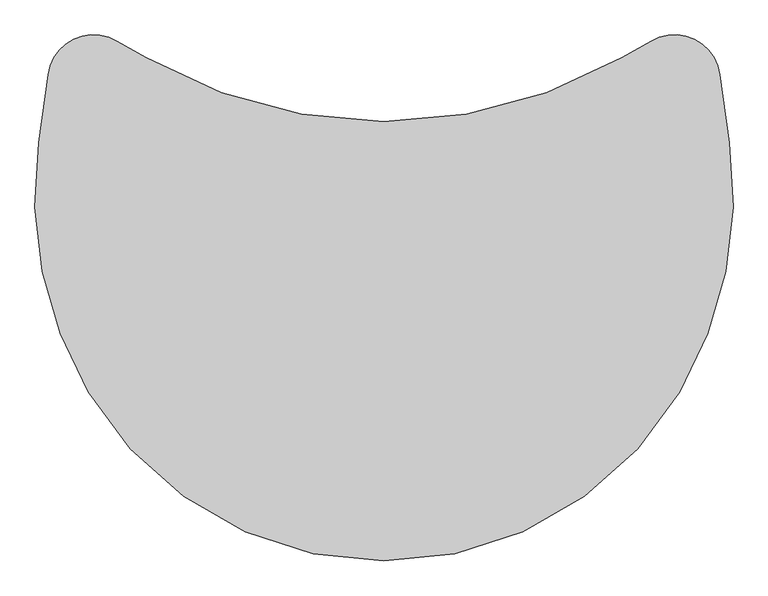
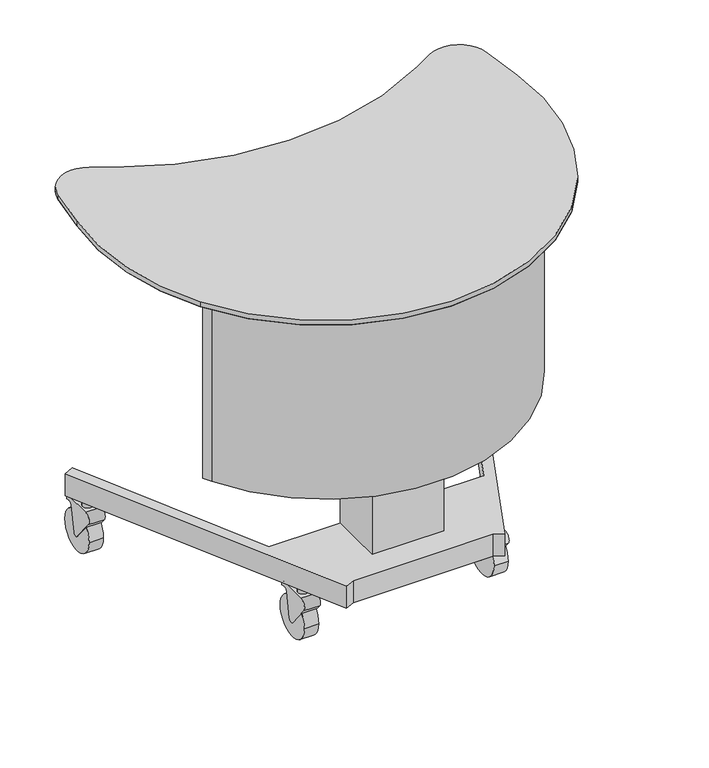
"""IFC4 building model written with IfcOpenShell, lengths in millimetres: furniture geometry, BK Library - Ease-Up - Infopoint : BK Library - Ease-Up - Infopoint."""

from ifc_helpers import new_model, si_unit, point, frame, frame_2d, origin, place, context, project, spatial, polyline, circle_curve, trimmed, segment, composite_curve, outline, extrude, source, transform, mapped, element, save
from ifc_brep_helpers import plane_surface, revolved_surface, advanced_brep


def furniture_72eb3576(model_context):
    return source(origin(), model_context, "Body", "SolidModel", [
        advanced_brep(
        [(-508.8128872, 403.8319139, 887.5070609), (-523.279447, 300.8969927, 887.5070609), (-448.2189859, -77.1008104, 887.5070609), (448.2189859, -77.1008104, 887.5070609), (523.279447, 300.8969927, 887.5070609), (508.8128872, 403.8319139, 887.5070609), (404.4941224, 454.7115751, 887.5070609), (360.0, 429.0228815, 887.5070609), (-360.0, 429.0228815, 887.5070609), (-404.4941224, 454.7115751, 887.5070609), (-489.0075259, 401.0484519, 875.0000016), (-414.4941224, 437.391067, 875.0000016), (-370.0, 411.7023734, 875.0000016), (370.0, 411.7023734, 875.0000016), (414.4941224, 437.391067, 875.0000016), (489.0075259, 401.0484519, 875.0000016), (503.4740856, 298.1135306, 875.0000016), (430.9797942, -66.9612706, 875.0000016), (-430.9797942, -66.9612706, 875.0000016), (-503.4740856, 298.1135306, 875.0000016)],
        [
            (0, 1),
            (1, 2, circle_curve(frame((56.0273732, 219.4807286, 887.5070609), z_axis=(0.0, 0.0, 1.0), x_axis=(-0.9902680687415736, 0.13917310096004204, 0.0)), 585.0)),
            (2, 3, circle_curve(frame((0.0, 186.5272243, 887.5070609), z_axis=(0.0, 0.0, 1.0), x_axis=(-0.8619595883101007, -0.5069769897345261, 0.0)), 520.0)),
            (3, 4, circle_curve(frame((-56.0273732, 219.4807286, 887.5070609), z_axis=(0.0, 0.0, 1.0), x_axis=(0.8619595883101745, -0.5069769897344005, 0.0)), 585.0)),
            (4, 5),
            (5, 6, circle_curve(frame((439.4941224, 394.0897968, 887.5070609), z_axis=(0.0, 0.0, 1.0), x_axis=(0.9902680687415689, 0.1391731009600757, 0.0)), 70.0)),
            (6, 7),
            (7, 8, circle_curve(frame((0.0, 1052.5611722, 887.5070609), z_axis=(0.0, 0.0, -1.0), x_axis=(0.49999999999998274, -0.8660254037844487, 0.0)), 720.0)),
            (8, 9),
            (9, 0, circle_curve(frame((-439.4941224, 394.0897968, 887.5070609), z_axis=(0.0, 0.0, 1.0), x_axis=(0.5000000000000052, 0.8660254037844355, 0.0)), 70.0)),
            (10, 11, circle_curve(frame((-439.4941224, 394.0897968, 875.0000016), z_axis=(0.0, 0.0, -1.0), x_axis=(0.5000000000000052, 0.8660254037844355, 0.0)), 50.0)),
            (11, 12),
            (12, 13, circle_curve(frame((0.0, 1052.5611722, 875.0000016), z_axis=(0.0, 0.0, 1.0), x_axis=(0.49999999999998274, -0.8660254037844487, 0.0)), 740.0)),
            (13, 14),
            (14, 15, circle_curve(frame((439.4941224, 394.0897968, 875.0000016), z_axis=(0.0, 0.0, -1.0), x_axis=(0.9902680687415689, 0.1391731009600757, 0.0)), 50.0)),
            (15, 16),
            (16, 17, circle_curve(frame((-56.0273732, 219.4807286, 875.0000016), z_axis=(0.0, 0.0, -1.0), x_axis=(0.8619595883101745, -0.5069769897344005, 0.0)), 565.0)),
            (17, 18, circle_curve(frame((0.0, 186.5272243, 875.0000016), z_axis=(0.0, 0.0, -1.0), x_axis=(-0.8619595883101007, -0.5069769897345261, 0.0)), 500.0)),
            (18, 19, circle_curve(frame((56.0273732, 219.4807286, 875.0000016), z_axis=(0.0, 0.0, -1.0), x_axis=(-0.9902680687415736, 0.13917310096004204, 0.0)), 565.0)),
            (19, 10),
            (19, 1),
            (0, 10),
            (18, 2),
            (17, 3),
            (16, 4),
            (15, 5),
            (14, 6),
            (13, 7),
            (12, 8),
            (11, 9),
        ],
        [
            plane_surface(frame((0.0, 302.2725105, 887.5070609), z_axis=(0.0, 0.0, 1.0), x_axis=(-0.8660254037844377, 0.5000000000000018, 0.0))),
            plane_surface(frame((0.0, 296.2588305, 875.0000016), z_axis=(0.0, 0.0, -1.0), x_axis=(-0.8660254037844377, 0.5000000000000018, 0.0))),
            plane_surface(frame((-496.2408057, 349.5809912, 875.0000016), z_axis=(-0.5250541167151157, 0.0737915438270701, -0.8478637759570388), x_axis=(-0.13917310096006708, -0.9902680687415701, 0.0))),
            revolved_surface(polyline([(-430.9797940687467, -66.9612705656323, 875.0000016), (-448.2189859, -77.10081040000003, 887.5070609)]), (56.0273732, 219.4807286, 521.6755778), (0.0, 0.0, 1.0)),
            revolved_surface(polyline([(430.9797940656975, -66.96127056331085, 875.0000016), (448.2189859, -77.1008104, 887.5070609)]), (0.0, 186.5272243, 562.3235204), (0.0, 0.0, 1.0)),
            revolved_surface(polyline([(503.4740855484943, 298.1135306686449, 875.0000016), (523.2794469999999, 300.8969927, 887.5070609)]), (-56.0273732, 219.4807286, 521.6755778), (0.0, 0.0, 1.0)),
            plane_surface(frame((496.2408057, 349.5809912, 875.0000016), z_axis=(0.5250541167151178, 0.0737915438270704, -0.8478637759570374), x_axis=(-0.13917310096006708, 0.9902680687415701, 0.0))),
            revolved_surface(polyline([(414.4941224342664, 437.39106695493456, 875.0000016), (404.4941224, 454.7115751, 887.5070609)]), (439.4941224, 394.0897968, 843.7323535), (0.0, 0.0, 1.0)),
            plane_surface(frame((392.2470612, 424.5467202, 875.0000016), z_axis=(-0.26510706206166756, 0.4591789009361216, -0.8478637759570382), x_axis=(-0.8660254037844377, -0.5000000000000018, 0.0))),
            revolved_surface(polyline([(370.0, 411.70237339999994, 875.0000016), (359.999999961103, 429.0228815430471, 887.5070609)]), (0.0, 1052.5611722, 1337.7611939), (0.0, 0.0, -1.0)),
            plane_surface(frame((-392.2470612, 424.5467202, 875.0000016), z_axis=(0.2651070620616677, 0.45917890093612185, -0.8478637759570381), x_axis=(-0.8660254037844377, 0.5000000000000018, 0.0))),
            revolved_surface(polyline([(-489.00752576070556, 401.04845186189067, 875.0000016), (-508.8128872, 403.8319139, 887.5070609)]), (-439.4941224, 394.0897968, 843.7323535), (0.0, 0.0, 1.0)),
        ],
        [
            (0, [[1, 2, 3, 4, 5, 6, 7, 8, 9, 10]]),
            (1, [[11, 12, 13, 14, 15, 16, 17, 18, 19, 20]]),
            (2, [[-20, 21, -1, 22]]),
            (3, [[-19, 23, -2, -21]]),
            (4, [[-18, 24, -3, -23]]),
            (5, [[-17, 25, -4, -24]]),
            (6, [[-16, 26, -5, -25]]),
            (7, [[-15, 27, -6, -26]]),
            (8, [[-14, 28, -7, -27]]),
            (9, [[-13, 29, -8, -28]]),
            (10, [[-12, 30, -9, -29]]),
            (11, [[-11, -22, -10, -30]]),
        ],
    ),
        extrude(outline(composite_curve([segment(polyline([(-405.4062199, -12.7808011), (-361.5152274, 11.1687287), (-351.1279923, -7.8673877)]), True, "CONTINUOUS"), segment(trimmed(circle_curve(frame_2d((0.0, 183.7288884)), 400.0), [point((-351.1279923, -7.8673877))], [point((351.1279923, -7.8673877))], True, "CARTESIAN"), True, "CONTINUOUS"), segment(polyline([(351.1279923, -7.8673877), (361.5152274, 11.1687287), (405.4062199, -12.7808011), (395.0189015, -31.8170514)]), True, "CONTINUOUS"), segment(trimmed(circle_curve(frame_2d((0.0, 183.728924)), 450.0), [point((395.0189015, -31.8170514))], [point((-395.0189015, -31.8170514))], False, "CARTESIAN"), True, "CONTINUOUS"), segment(polyline([(-395.0189015, -31.8170514), (-405.4062199, -12.7808011)]), True, "CONTINUOUS")], self_intersect=False)), frame((0.0, 0.0, 402.9999948), z_axis=(0.0, 0.0, 1.0), x_axis=(1.0, 0.0, 0.0)), (0.0, 0.0, 1.0), 472.0000069),
        extrude(outline(composite_curve([segment(trimmed(circle_curve(frame_2d((0.0, 1052.5611722)), 720.0), [point((-360.0, 429.0228815))], [point((360.0, 429.0228815))], True, "CARTESIAN"), True, "CONTINUOUS"), segment(polyline([(360.0, 429.0228815), (404.4941224, 454.7115751)]), True, "CONTINUOUS"), segment(trimmed(circle_curve(frame_2d((439.4941224, 394.0897968)), 70.0), [point((404.4941224, 454.7115751))], [point((508.8128872, 403.8319139))], False, "CARTESIAN"), True, "CONTINUOUS"), segment(polyline([(508.8128872, 403.8319139), (523.279447, 300.8969927)]), True, "CONTINUOUS"), segment(trimmed(circle_curve(frame_2d((-56.0273732, 219.4807286)), 585.0), [point((523.279447, 300.8969927))], [point((448.2189859, -77.1008104))], False, "CARTESIAN"), True, "CONTINUOUS"), segment(trimmed(circle_curve(frame_2d((0.0, 186.5272243)), 520.0), [point((448.2189859, -77.1008104))], [point((-448.2189859, -77.1008104))], False, "CARTESIAN"), True, "CONTINUOUS"), segment(trimmed(circle_curve(frame_2d((56.0273732, 219.4807286)), 585.0), [point((-448.2189859, -77.1008104))], [point((-523.279447, 300.8969927))], False, "CARTESIAN"), True, "CONTINUOUS"), segment(polyline([(-523.279447, 300.8969927), (-508.8128872, 403.8319139)]), True, "CONTINUOUS"), segment(trimmed(circle_curve(frame_2d((-439.4941224, 394.0897968)), 70.0), [point((-508.8128872, 403.8319139))], [point((-404.4941224, 454.7115751))], False, "CARTESIAN"), True, "CONTINUOUS"), segment(polyline([(-404.4941224, 454.7115751), (-360.0, 429.0228815)]), True, "CONTINUOUS")], self_intersect=False)), frame((0.0, 0.0, 887.5070609), z_axis=(0.0, 0.0, 1.0), x_axis=(1.0, 0.0, 0.0)), (0.0, 0.0, 1.0), 12.4929391),
        extrude(outline(polyline([(85.0000086, -25.0000002), (85.0000086, -155.0000155), (-85.0000073, -155.0000155), (-85.0000073, -25.0000002), (85.0000086, -25.0000002)])), frame((0.0, 0.0, 185.1070994), z_axis=(0.0, 0.0, 1.0), x_axis=(1.0, 0.0, 0.0)), (0.0, 0.0, 1.0), 689.8929022),
        extrude(outline(polyline([(-486.3288536, 411.5514373), (-463.6711523, 422.1168943), (-255.1771198, -25.0000002), (255.1771198, -25.0000002), (463.6711523, 422.1168943), (486.3288536, 411.5514373), (188.3582333, -227.4485441), (165.700532, -216.883128), (-165.700532, -216.883128), (-188.3582333, -227.4485441), (-486.3288536, 411.5514373)])), frame((0.0, 0.0, 130.1070999), z_axis=(0.0, 0.0, 1.0), x_axis=(1.0, 0.0, 0.0)), (0.0, 0.0, 1.0), 54.9999995),
        extrude(outline(composite_curve([segment(trimmed(circle_curve(frame_2d((-455.0880901, 375.0071075)), 11.9829571), [point((-443.105133, 375.0071075))], [point((-467.0710472, 375.0071075))], False, "CARTESIAN"), True, "CONTINUOUS"), segment(trimmed(circle_curve(frame_2d((-455.0880901, 375.0071075)), 11.9829571), [point((-467.0710472, 375.0071075))], [point((-443.105133, 375.0071075))], False, "CARTESIAN"), True, "CONTINUOUS")], self_intersect=False)), frame((0.0, 0.0, 118.2011673), z_axis=(0.0, 0.0, 1.0), x_axis=(1.0, 0.0, 0.0)), (0.0, 0.0, 1.0), 25.0518565),
        extrude(outline(composite_curve([segment(polyline([(353.1911199, 118.2011673), (422.0278449, 118.2011673)]), True, "CONTINUOUS"), segment(trimmed(circle_curve(frame_2d((422.0278449, 108.433686)), 9.7674813), [point((422.0278449, 118.2011673))], [point((431.2846714, 105.3168199))], False, "CARTESIAN"), True, "CONTINUOUS"), segment(polyline([(431.2846714, 105.3168199), (421.5641791, 107.2062922)]), True, "CONTINUOUS"), segment(trimmed(circle_curve(frame_2d((420.0582632, 99.4590263)), 7.892269), [point((421.5641791, 107.2062922))], [point((412.3109974, 100.9649423))], True, "CARTESIAN"), True, "CONTINUOUS"), segment(polyline([(412.3109974, 100.9649423), (400.4351675, 39.8690939)]), True, "CONTINUOUS"), segment(trimmed(circle_curve(frame_2d((393.3487579, 41.2465524)), 7.2190437), [point((400.4351675, 39.8690939))], [point((387.7385072, 36.703461))], False, "CARTESIAN"), True, "CONTINUOUS"), segment(polyline([(387.7385072, 36.703461), (341.5339304, 93.7613614)]), True, "CONTINUOUS"), segment(trimmed(circle_curve(frame_2d((353.1911199, 103.2011673)), 15.0), [point((341.5339304, 93.7613614))], [point((353.1911199, 118.2011673))], False, "CARTESIAN"), True, "CONTINUOUS")], self_intersect=False)), frame((-472.158393, 0.0, 0.0), z_axis=(1.0, 0.0, 0.0), x_axis=(0.0, 1.0, 0.0)), (0.0, 0.0, 1.0), 37.6266561),
        extrude(outline(composite_curve([segment(trimmed(circle_curve(frame_2d((390.1094243, 50.0)), 50.0), [point((440.1094243, 50.0))], [point((340.1094243, 50.0))], False, "CARTESIAN"), True, "CONTINUOUS"), segment(trimmed(circle_curve(frame_2d((390.1094243, 50.0)), 50.0), [point((340.1094243, 50.0))], [point((440.1094243, 50.0))], False, "CARTESIAN"), True, "CONTINUOUS")], self_intersect=False)), frame((-471.3519088, 0.0, 0.0), z_axis=(1.0, 0.0, 0.0), x_axis=(0.0, 1.0, 0.0)), (0.0, 0.0, 1.0), 33.7209692),
        extrude(outline(composite_curve([segment(trimmed(circle_curve(frame_2d((455.0880901, 375.0071075)), 11.9829571), [point((443.105133, 375.0071075))], [point((467.0710472, 375.0071075))], False, "CARTESIAN"), True, "CONTINUOUS"), segment(trimmed(circle_curve(frame_2d((455.0880901, 375.0071075)), 11.9829571), [point((467.0710472, 375.0071075))], [point((443.105133, 375.0071075))], False, "CARTESIAN"), True, "CONTINUOUS")], self_intersect=False)), frame((0.0, 0.0, 118.2011673), z_axis=(0.0, 0.0, 1.0), x_axis=(1.0, 0.0, 0.0)), (0.0, 0.0, 1.0), 25.0518565),
        extrude(outline(composite_curve([segment(polyline([(353.1911199, 118.2011673), (422.0278449, 118.2011673)]), True, "CONTINUOUS"), segment(trimmed(circle_curve(frame_2d((422.0278449, 108.433686)), 9.7674813), [point((422.0278449, 118.2011673))], [point((431.2846714, 105.3168199))], False, "CARTESIAN"), True, "CONTINUOUS"), segment(polyline([(431.2846714, 105.3168199), (421.5641791, 107.2062922)]), True, "CONTINUOUS"), segment(trimmed(circle_curve(frame_2d((420.0582632, 99.4590263)), 7.892269), [point((421.5641791, 107.2062922))], [point((412.3109974, 100.9649423))], True, "CARTESIAN"), True, "CONTINUOUS"), segment(polyline([(412.3109974, 100.9649423), (400.4351675, 39.8690939)]), True, "CONTINUOUS"), segment(trimmed(circle_curve(frame_2d((393.3487579, 41.2465524)), 7.2190437), [point((400.4351675, 39.8690939))], [point((387.7385072, 36.703461))], False, "CARTESIAN"), True, "CONTINUOUS"), segment(polyline([(387.7385072, 36.703461), (341.5339304, 93.7613614)]), True, "CONTINUOUS"), segment(trimmed(circle_curve(frame_2d((353.1911199, 103.2011673)), 15.0), [point((341.5339304, 93.7613614))], [point((353.1911199, 118.2011673))], False, "CARTESIAN"), True, "CONTINUOUS")], self_intersect=False)), frame((434.5317369, 0.0, 0.0), z_axis=(1.0, 0.0, 0.0), x_axis=(0.0, 1.0, 0.0)), (0.0, 0.0, 1.0), 37.6266561),
        extrude(outline(composite_curve([segment(trimmed(circle_curve(frame_2d((390.1094243, 50.0)), 50.0), [point((440.1094243, 50.0))], [point((340.1094243, 50.0))], False, "CARTESIAN"), True, "CONTINUOUS"), segment(trimmed(circle_curve(frame_2d((390.1094243, 50.0)), 50.0), [point((340.1094243, 50.0))], [point((440.1094243, 50.0))], False, "CARTESIAN"), True, "CONTINUOUS")], self_intersect=False)), frame((437.6309396, 0.0, 0.0), z_axis=(1.0, 0.0, 0.0), x_axis=(0.0, 1.0, 0.0)), (0.0, 0.0, 1.0), 33.7209692),
        extrude(outline(composite_curve([segment(trimmed(circle_curve(frame_2d((-225.7601652, -113.921643)), 11.9829571), [point((-213.7772082, -113.921643))], [point((-237.7431223, -113.921643))], False, "CARTESIAN"), True, "CONTINUOUS"), segment(trimmed(circle_curve(frame_2d((-225.7601652, -113.921643)), 11.9829571), [point((-237.7431223, -113.921643))], [point((-213.7772082, -113.921643))], False, "CARTESIAN"), True, "CONTINUOUS")], self_intersect=False)), frame((0.0, 0.0, 118.2011673), z_axis=(0.0, 0.0, 1.0), x_axis=(1.0, 0.0, 0.0)), (0.0, 0.0, 1.0), 25.0518565),
        extrude(outline(composite_curve([segment(polyline([(-135.7376306, 118.2011673), (-66.9009056, 118.2011673)]), True, "CONTINUOUS"), segment(trimmed(circle_curve(frame_2d((-66.9009056, 108.433686)), 9.7674813), [point((-66.9009056, 118.2011673))], [point((-57.6440791, 105.3168199))], False, "CARTESIAN"), True, "CONTINUOUS"), segment(polyline([(-57.6440791, 105.3168199), (-67.3645713, 107.2062922)]), True, "CONTINUOUS"), segment(trimmed(circle_curve(frame_2d((-68.8704873, 99.4590263)), 7.892269), [point((-67.3645713, 107.2062922))], [point((-76.6177531, 100.9649423))], True, "CARTESIAN"), True, "CONTINUOUS"), segment(polyline([(-76.6177531, 100.9649423), (-88.493583, 39.8690939)]), True, "CONTINUOUS"), segment(trimmed(circle_curve(frame_2d((-95.5799926, 41.2465524)), 7.2190437), [point((-88.493583, 39.8690939))], [point((-101.1902433, 36.703461))], False, "CARTESIAN"), True, "CONTINUOUS"), segment(polyline([(-101.1902433, 36.703461), (-147.39482, 93.7613614)]), True, "CONTINUOUS"), segment(trimmed(circle_curve(frame_2d((-135.7376306, 103.2011673)), 15.0), [point((-147.39482, 93.7613614))], [point((-135.7376306, 118.2011673))], False, "CARTESIAN"), True, "CONTINUOUS")], self_intersect=False)), frame((-242.8304682, 0.0, 0.0), z_axis=(1.0, 0.0, 0.0), x_axis=(0.0, 1.0, 0.0)), (0.0, 0.0, 1.0), 37.6266561),
        extrude(outline(composite_curve([segment(trimmed(circle_curve(frame_2d((-98.8193261, 50.0)), 50.0), [point((-48.8193261, 50.0))], [point((-148.8193261, 50.0))], False, "CARTESIAN"), True, "CONTINUOUS"), segment(trimmed(circle_curve(frame_2d((-98.8193261, 50.0)), 50.0), [point((-148.8193261, 50.0))], [point((-48.8193261, 50.0))], False, "CARTESIAN"), True, "CONTINUOUS")], self_intersect=False)), frame((-242.0239839, 0.0, 0.0), z_axis=(1.0, 0.0, 0.0), x_axis=(0.0, 1.0, 0.0)), (0.0, 0.0, 1.0), 33.7209692),
        extrude(outline(composite_curve([segment(trimmed(circle_curve(frame_2d((225.7601652, -113.921643)), 11.9829571), [point((213.7772082, -113.921643))], [point((237.7431223, -113.921643))], False, "CARTESIAN"), True, "CONTINUOUS"), segment(trimmed(circle_curve(frame_2d((225.7601652, -113.921643)), 11.9829571), [point((237.7431223, -113.921643))], [point((213.7772082, -113.921643))], False, "CARTESIAN"), True, "CONTINUOUS")], self_intersect=False)), frame((0.0, 0.0, 118.2011673), z_axis=(0.0, 0.0, 1.0), x_axis=(1.0, 0.0, 0.0)), (0.0, 0.0, 1.0), 25.0518565),
        extrude(outline(composite_curve([segment(polyline([(-135.7376306, 118.2011673), (-66.9009056, 118.2011673)]), True, "CONTINUOUS"), segment(trimmed(circle_curve(frame_2d((-66.9009056, 108.433686)), 9.7674813), [point((-66.9009056, 118.2011673))], [point((-57.6440791, 105.3168199))], False, "CARTESIAN"), True, "CONTINUOUS"), segment(polyline([(-57.6440791, 105.3168199), (-67.3645713, 107.2062922)]), True, "CONTINUOUS"), segment(trimmed(circle_curve(frame_2d((-68.8704873, 99.4590263)), 7.892269), [point((-67.3645713, 107.2062922))], [point((-76.6177531, 100.9649423))], True, "CARTESIAN"), True, "CONTINUOUS"), segment(polyline([(-76.6177531, 100.9649423), (-88.493583, 39.8690939)]), True, "CONTINUOUS"), segment(trimmed(circle_curve(frame_2d((-95.5799926, 41.2465524)), 7.2190437), [point((-88.493583, 39.8690939))], [point((-101.1902433, 36.703461))], False, "CARTESIAN"), True, "CONTINUOUS"), segment(polyline([(-101.1902433, 36.703461), (-147.39482, 93.7613614)]), True, "CONTINUOUS"), segment(trimmed(circle_curve(frame_2d((-135.7376306, 103.2011673)), 15.0), [point((-147.39482, 93.7613614))], [point((-135.7376306, 118.2011673))], False, "CARTESIAN"), True, "CONTINUOUS")], self_intersect=False)), frame((205.2038121, 0.0, 0.0), z_axis=(1.0, 0.0, 0.0), x_axis=(0.0, 1.0, 0.0)), (0.0, 0.0, 1.0), 37.6266561),
        extrude(outline(composite_curve([segment(trimmed(circle_curve(frame_2d((-98.8193261, 50.0)), 50.0), [point((-48.8193261, 50.0))], [point((-148.8193261, 50.0))], False, "CARTESIAN"), True, "CONTINUOUS"), segment(trimmed(circle_curve(frame_2d((-98.8193261, 50.0)), 50.0), [point((-148.8193261, 50.0))], [point((-48.8193261, 50.0))], False, "CARTESIAN"), True, "CONTINUOUS")], self_intersect=False)), frame((208.3030147, 0.0, 0.0), z_axis=(1.0, 0.0, 0.0), x_axis=(0.0, 1.0, 0.0)), (0.0, 0.0, 1.0), 33.7209692),
    ])


if __name__ == "__main__":
    model = new_model("IFC4")
    model_context = context("Model", 3, world=origin())
    ifc_project = project(units=[si_unit("LENGTHUNIT", "METRE", prefix="MILLI")], contexts=[model_context])
    site = spatial("IfcSite", under=ifc_project)
    building = spatial("IfcBuilding", under=site)
    placement = place(None, origin())
    furniture_shape = furniture_72eb3576(model_context)
    element("IfcFurniture", 1, ObjectType="BK Library - Ease-Up - Infopoint : BK Library - Ease-Up - Infopoint", at=placement, inside=building, context=model_context, shape_type="MappedRepresentation", body=[
        mapped(furniture_shape, transform((0.0, 0.0, 0.0), x_axis=(1.0, 0.0, 0.0), y_axis=(0.0, 1.0, 0.0), z_axis=(0.0, 0.0, 1.0))),
    ])
    save(model, "model.ifc")
